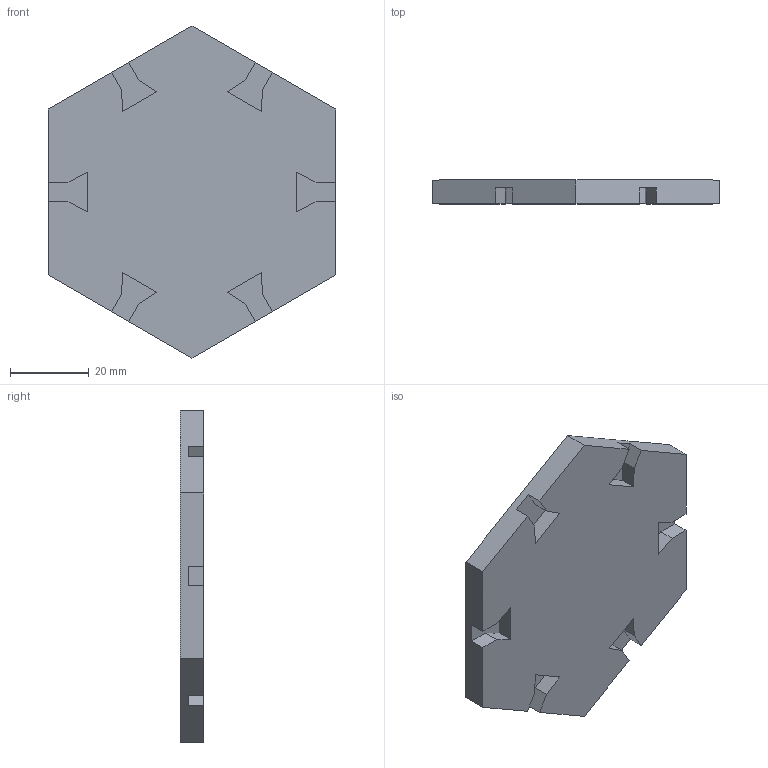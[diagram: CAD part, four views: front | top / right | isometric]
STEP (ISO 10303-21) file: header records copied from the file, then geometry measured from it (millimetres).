
FILE_DESCRIPTION(/* description */ (''),/* implementation_level */ '2;1');
FILE_NAME(/* name */ 'Hex Base Module.step',/* time_stamp */ '2026-03-31T18:54:25+02:00',/* author */ (''),/* organization */ (''),/* preprocessor_version */ 'ST-DEVELOPER v20.1',/* originating_system */ 'Autodesk Translation Framework v14.24.0.0',/* authorisation */ '');
FILE_SCHEMA (('AUTOMOTIVE_DESIGN { 1 0 10303 214 3 1 1 }'));
Length unit declared in the file: millimetre
Products named in the file (1): Hex Base Module
Bounding box: 72.8 x 6 x 84.06 mm (x, y, z)
Volume: 26038.8 mm3; surface area: 11321 mm2
Topology: 1 solids, 1 shells, 44 faces, 126 edges, 84 vertices
Faces by surface type: plane 44
Entity records: 1450 total; most frequent: CARTESIAN_POINT 255, ORIENTED_EDGE 252, DIRECTION 216, LINE 126, VECTOR 126, EDGE_CURVE 126, VERTEX_POINT 84, AXIS2_PLACEMENT_3D 45
